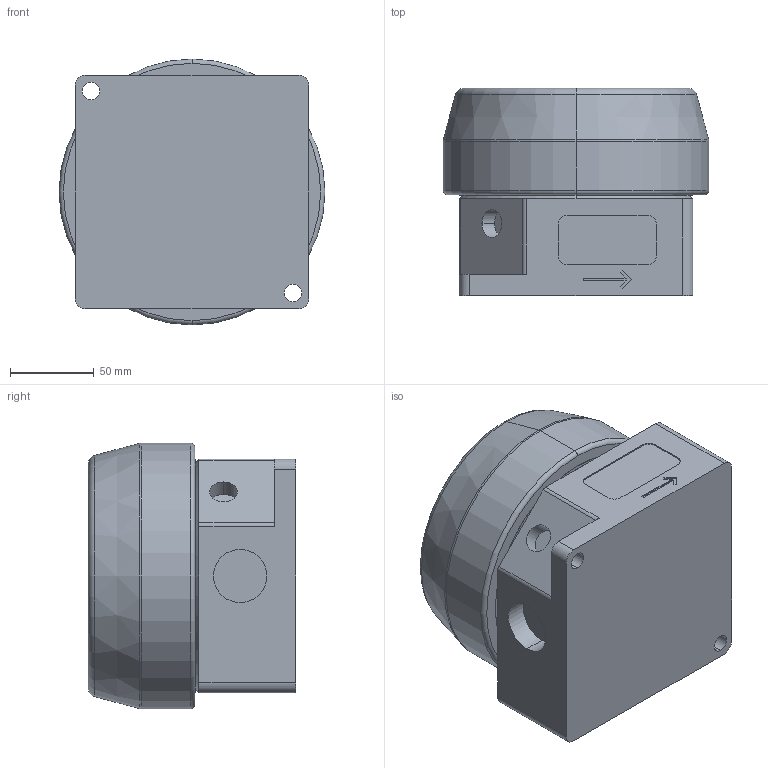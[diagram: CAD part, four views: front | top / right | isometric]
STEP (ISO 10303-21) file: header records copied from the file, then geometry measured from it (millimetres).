
FILE_DESCRIPTION (( 'STEP AP214' ), '1' );
FILE_NAME ('RBA 12.STEP', '2021-08-19T22:32:07', ( '' ), ( '' ), 'SwSTEP 2.0', 'SolidWorks 2020', '' );
FILE_SCHEMA (( 'AUTOMOTIVE_DESIGN' ));
Length unit declared in the file: inch
Products named in the file (1): RBA 12
Bounding box: 158.75 x 123.83 x 158.75 mm (x, y, z)
Volume: 2260723.4 mm3; surface area: 111216.1 mm2
Topology: 1 solids, 1 shells, 101 faces, 250 edges, 162 vertices
Faces by surface type: plane 55, cylinder 34, cone 6, torus 6
Entity records: 4365 total; most frequent: DIRECTION 546, CARTESIAN_POINT 514, ORIENTED_EDGE 500, EDGE_CURVE 250, AXIS2_PLACEMENT_3D 194, VERTEX_POINT 162, VECTOR 158, LINE 158
